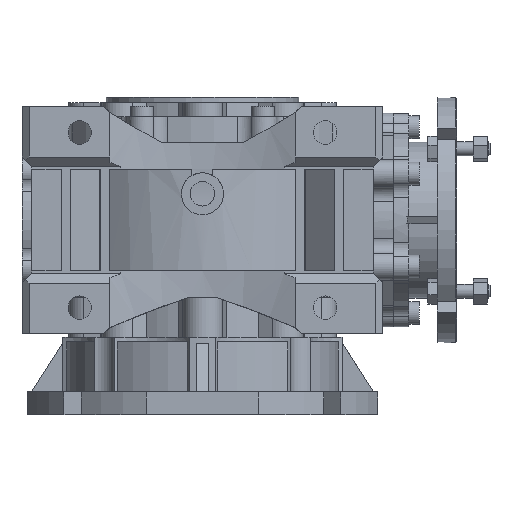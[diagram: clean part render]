
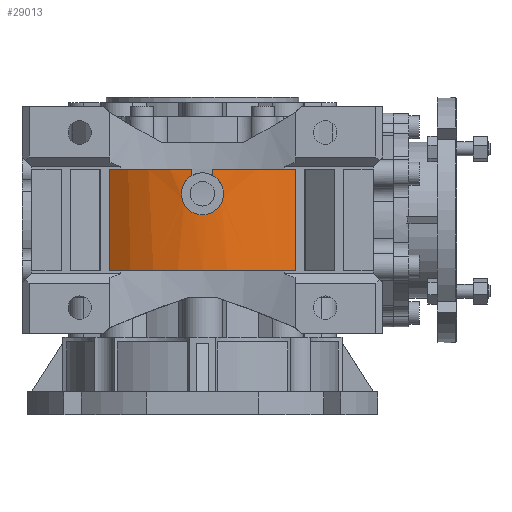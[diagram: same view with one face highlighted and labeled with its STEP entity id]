
A CAD part, front view. The second image highlights one B-rep face of the part: STEP entity #29013.
In plain terms, the highlighted cylindrical face has radius 86 mm (diameter 172 mm), a partial arc.
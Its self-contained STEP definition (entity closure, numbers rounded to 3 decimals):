
#497=B_SPLINE_CURVE_WITH_KNOTS('',3,(#46791,#46792,#46793,#46794,#46795,
#46796,#46797,#46798,#46799,#46800,#46801,#46802,#46803,#46804,#46805,#46806),
 .UNSPECIFIED.,.F.,.F.,(4,1,1,1,1,1,1,1,1,1,1,1,1,4),(0.044,
0.052,0.056,0.059,0.063,
0.067,0.071,0.075,0.083,
0.087,0.091,0.095,0.099,
0.106),.UNSPECIFIED.);
#649=CYLINDRICAL_SURFACE('',#31309,86.);
#1867=LINE('',#45784,#4320);
#1869=LINE('',#45787,#4322);
#2204=LINE('',#46789,#4657);
#2205=LINE('',#46808,#4658);
#4320=VECTOR('',#35536,1000.);
#4322=VECTOR('',#35540,1000.);
#4657=VECTOR('',#36483,1000.);
#4658=VECTOR('',#36484,1000.);
#8726=ORIENTED_EDGE('',*,*,#16585,.T.);
#8727=ORIENTED_EDGE('',*,*,#16586,.T.);
#8728=ORIENTED_EDGE('',*,*,#16587,.T.);
#8729=ORIENTED_EDGE('',*,*,#16076,.T.);
#8730=ORIENTED_EDGE('',*,*,#16089,.T.);
#8731=ORIENTED_EDGE('',*,*,#16056,.F.);
#8732=ORIENTED_EDGE('',*,*,#16087,.T.);
#8733=ORIENTED_EDGE('',*,*,#15308,.T.);
#15308=EDGE_CURVE('',#19639,#19637,#22374,.T.);
#16056=EDGE_CURVE('',#20195,#20196,#22551,.T.);
#16076=EDGE_CURVE('',#20209,#20212,#22559,.T.);
#16087=EDGE_CURVE('',#20195,#19639,#1867,.T.);
#16089=EDGE_CURVE('',#20212,#20196,#1869,.F.);
#16585=EDGE_CURVE('',#19637,#20541,#2204,.F.);
#16586=EDGE_CURVE('',#20541,#20542,#497,.T.);
#16587=EDGE_CURVE('',#20542,#20209,#2205,.T.);
#19637=VERTEX_POINT('',#43916);
#19639=VERTEX_POINT('',#43919);
#20195=VERTEX_POINT('',#45722);
#20196=VERTEX_POINT('',#45724);
#20209=VERTEX_POINT('',#45757);
#20212=VERTEX_POINT('',#45763);
#20541=VERTEX_POINT('',#46790);
#20542=VERTEX_POINT('',#46807);
#22374=CIRCLE('',#30584,86.);
#22551=CIRCLE('',#30983,86.);
#22559=CIRCLE('',#30995,86.);
#24136=EDGE_LOOP('',(#8726,#8727,#8728,#8729,#8730,#8731,#8732,#8733));
#26179=FACE_BOUND('',#24136,.T.);
#29013=ADVANCED_FACE('',(#26179),#649,.T.);
#30584=AXIS2_PLACEMENT_3D('',#43918,#34258,#34259);
#30983=AXIS2_PLACEMENT_3D('',#45723,#35476,#35477);
#30995=AXIS2_PLACEMENT_3D('',#45764,#35512,#35513);
#31309=AXIS2_PLACEMENT_3D('',#46788,#36481,#36482);
#34258=DIRECTION('',(0.,0.,1.));
#34259=DIRECTION('',(1.,0.,0.));
#35476=DIRECTION('',(0.,0.,1.));
#35477=DIRECTION('',(1.,0.,0.));
#35512=DIRECTION('',(0.,0.,1.));
#35513=DIRECTION('',(1.,0.,0.));
#35536=DIRECTION('',(0.,0.,-1.));
#35540=DIRECTION('',(0.,0.,-1.));
#36481=DIRECTION('',(0.,0.,-1.));
#36482=DIRECTION('',(-1.,0.,0.));
#36483=DIRECTION('',(0.,0.,-1.));
#36484=DIRECTION('',(0.,0.,-1.));
#43916=CARTESIAN_POINT('',(-6.,-85.79,-29.));
#43918=CARTESIAN_POINT('',(0.,0.,-29.));
#43919=CARTESIAN_POINT('',(-53.,-67.727,-29.));
#45722=CARTESIAN_POINT('',(-53.,-67.727,29.));
#45723=CARTESIAN_POINT('',(0.,0.,29.));
#45724=CARTESIAN_POINT('',(53.,-67.727,29.));
#45757=CARTESIAN_POINT('',(6.,-85.79,-29.));
#45763=CARTESIAN_POINT('',(53.,-67.727,-29.));
#45764=CARTESIAN_POINT('',(0.,0.,-29.));
#45784=CARTESIAN_POINT('',(-53.,-67.727,29.));
#45787=CARTESIAN_POINT('',(53.,-67.727,29.));
#46788=CARTESIAN_POINT('',(0.,0.,29.));
#46789=CARTESIAN_POINT('',(-6.,-85.79,29.));
#46790=CARTESIAN_POINT('',(-6.,-85.79,-25.392));
#46791=CARTESIAN_POINT('',(-6.,-85.79,-25.392));
#46792=CARTESIAN_POINT('',(-8.276,-85.631,-24.078));
#46793=CARTESIAN_POINT('',(-10.981,-85.304,-20.981));
#46794=CARTESIAN_POINT('',(-12.19,-85.131,-15.806));
#46795=CARTESIAN_POINT('',(-11.801,-85.188,-11.84));
#46796=CARTESIAN_POINT('',(-10.159,-85.407,-8.216));
#46797=CARTESIAN_POINT('',(-7.442,-85.697,-5.314));
#46798=CARTESIAN_POINT('',(-3.945,-85.937,-3.437));
#46799=CARTESIAN_POINT('',(1.337,-86.065,-2.558));
#46800=CARTESIAN_POINT('',(6.541,-85.796,-4.343));
#46801=CARTESIAN_POINT('',(10.159,-85.407,-8.217));
#46802=CARTESIAN_POINT('',(11.8,-85.188,-11.839));
#46803=CARTESIAN_POINT('',(12.19,-85.131,-15.804));
#46804=CARTESIAN_POINT('',(10.984,-85.304,-20.979));
#46805=CARTESIAN_POINT('',(8.266,-85.632,-24.084));
#46806=CARTESIAN_POINT('',(6.,-85.79,-25.392));
#46807=CARTESIAN_POINT('',(6.,-85.79,-25.392));
#46808=CARTESIAN_POINT('',(6.,-85.79,29.));
